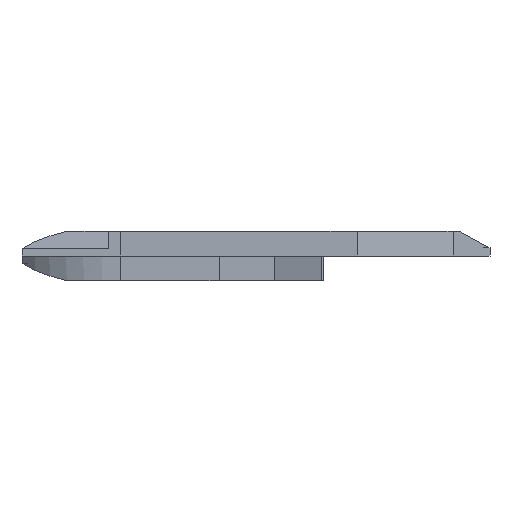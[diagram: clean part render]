
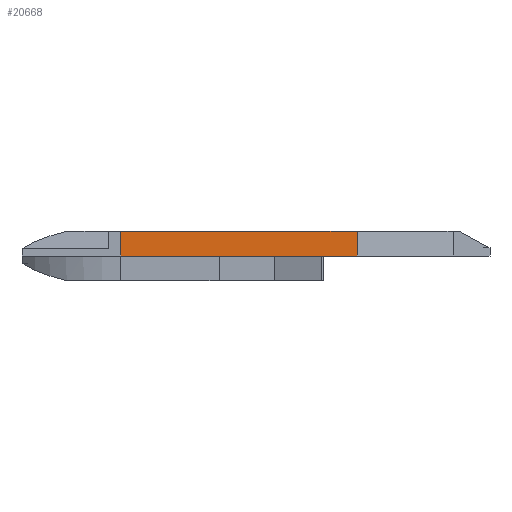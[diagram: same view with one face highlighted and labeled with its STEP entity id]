
A CAD part, left-side view. The second image highlights one B-rep face of the part: STEP entity #20668.
In plain terms, the highlighted planar face has unit normal (-1, 0, 0).
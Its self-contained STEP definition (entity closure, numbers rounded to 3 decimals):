
#3544=LINE('',#34893,#5461);
#4242=LINE('',#36332,#6159);
#4243=LINE('',#36335,#6160);
#4244=LINE('',#36336,#6161);
#5461=VECTOR('',#23190,38.412);
#6159=VECTOR('',#24440,4.);
#6160=VECTOR('',#24443,38.412);
#6161=VECTOR('',#24444,4.);
#6726=PLANE('',#21292);
#7875=FACE_OUTER_BOUND('',#9007,.T.);
#9007=EDGE_LOOP('',(#19586,#19587,#19588,#19589));
#10504=VERTEX_POINT('',#34890);
#10505=VERTEX_POINT('',#34892);
#10970=VERTEX_POINT('',#36330);
#10971=VERTEX_POINT('',#36334);
#13144=EDGE_CURVE('',#10504,#10505,#3544,.T.);
#13849=EDGE_CURVE('',#10970,#10505,#4242,.T.);
#13850=EDGE_CURVE('',#10970,#10971,#4243,.T.);
#13851=EDGE_CURVE('',#10971,#10504,#4244,.T.);
#19586=ORIENTED_EDGE('',*,*,#13850,.F.);
#19587=ORIENTED_EDGE('',*,*,#13849,.T.);
#19588=ORIENTED_EDGE('',*,*,#13144,.F.);
#19589=ORIENTED_EDGE('',*,*,#13851,.F.);
#20668=ADVANCED_FACE('',(#7875),#6726,.T.);
#21292=AXIS2_PLACEMENT_3D('',#36333,#24441,#24442);
#23190=DIRECTION('',(0.,-1.,0.));
#24440=DIRECTION('',(0.,0.,1.));
#24441=DIRECTION('center_axis',(-1.,0.,0.));
#24442=DIRECTION('ref_axis',(0.,-1.,0.));
#24443=DIRECTION('',(0.,1.,0.));
#24444=DIRECTION('',(0.,0.,1.));
#34890=CARTESIAN_POINT('',(-15.,12.,4.));
#34892=CARTESIAN_POINT('',(-15.,-26.412,4.));
#34893=CARTESIAN_POINT('',(-15.,-26.412,4.));
#36330=CARTESIAN_POINT('',(-15.,-26.412,0.));
#36332=CARTESIAN_POINT('',(-15.,-26.412,0.));
#36333=CARTESIAN_POINT('Origin',(-15.,12.,0.));
#36334=CARTESIAN_POINT('',(-15.,12.,0.));
#36335=CARTESIAN_POINT('',(-15.,-26.412,0.));
#36336=CARTESIAN_POINT('',(-15.,12.,0.));
